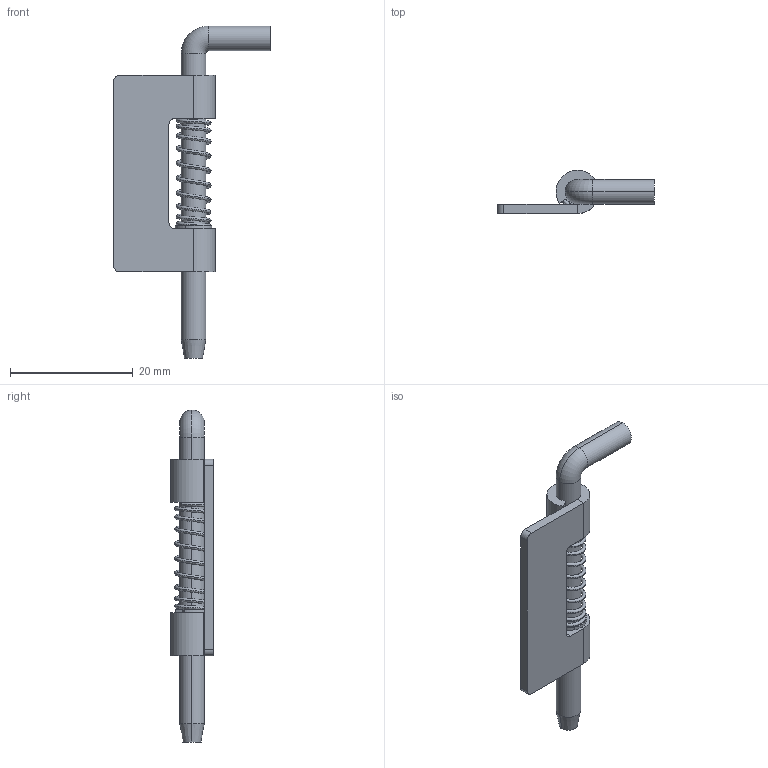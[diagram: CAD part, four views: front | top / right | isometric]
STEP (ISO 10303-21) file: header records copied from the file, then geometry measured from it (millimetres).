
FILE_DESCRIPTION (( 'STEP AP214' ), '1' );
FILE_NAME ('SK2-037-3.STEP', '2020-04-15T06:06:46', ( 'admin' ), ( 'Microsoft' ), 'SwSTEP 2.0', 'SolidWorks 2018', '' );
FILE_SCHEMA (( 'AUTOMOTIVE_DESIGN' ));
Length unit declared in the file: millimetre
Products named in the file (5): 2-037-3-F3; 2-037-3-F4; 2-037-3-F2; 2-037-3-F1; SK2-037-3
Assembly tree (4 placements, depth 2):
  SK2-037-3
    2-037-3-F1
    2-037-3-F2
    2-037-3-F4
    2-037-3-F3
Bounding box: 25.5 x 6.99 x 54 mm (x, y, z)
Volume: 1656.4 mm3; surface area: 2479.9 mm2
Topology: 4 solids, 4 shells, 50 faces, 106 edges, 66 vertices
Faces by surface type: plane 24, cylinder 20, bspline 2, torus 2, cone 2
Entity records: 5094 total; most frequent: CARTESIAN_POINT 3789, DIRECTION 262, ORIENTED_EDGE 212, EDGE_CURVE 106, AXIS2_PLACEMENT_3D 103, VERTEX_POINT 66, VECTOR 56, LINE 56
